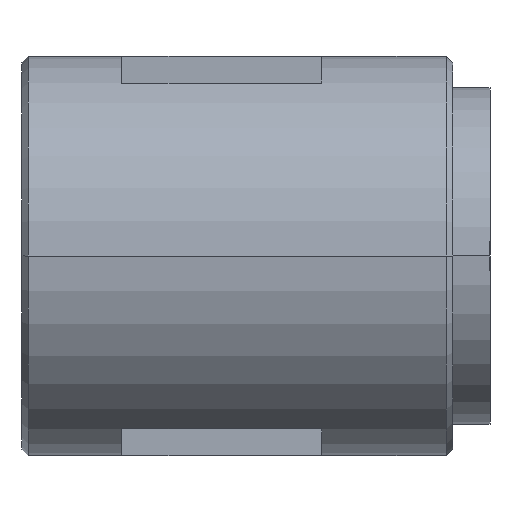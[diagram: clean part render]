
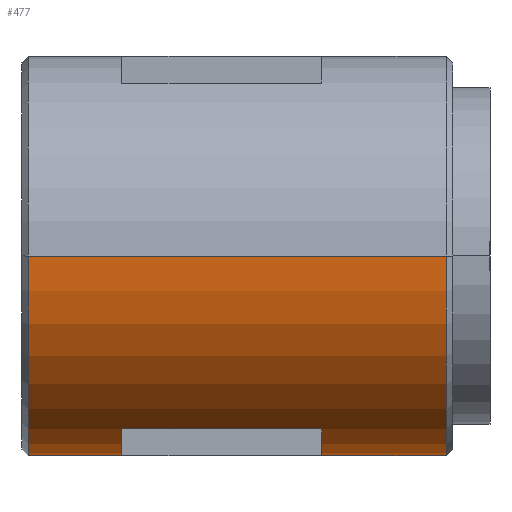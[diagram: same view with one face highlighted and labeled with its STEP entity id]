
A CAD part, left-side view. The second image highlights one B-rep face of the part: STEP entity #477.
In plain terms, the highlighted cylindrical face has radius 16 mm (diameter 32 mm), a partial arc.
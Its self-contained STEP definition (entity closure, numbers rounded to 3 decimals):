
#277=CARTESIAN_POINT('',(-16.0,16.25,0.));
#278=VERTEX_POINT('',#277);
#294=CARTESIAN_POINT('',(16.0,16.25,0.0));
#295=VERTEX_POINT('',#294);
#302=CARTESIAN_POINT('',(0.0,16.25,0.0));
#303=DIRECTION('',(0.0,1.0,0.0));
#304=DIRECTION('',(-1.0,0.0,0.0));
#305=AXIS2_PLACEMENT_3D('',#302,#303,#304);
#306=CIRCLE('',#305,16.0);
#307=EDGE_CURVE('',#295,#278,#306,.T.);
#354=CARTESIAN_POINT('',(0.0,-17.75,0.0));
#355=DIRECTION('',(0.0,1.0,0.0));
#356=DIRECTION('',(1.0,0.0,0.0));
#357=AXIS2_PLACEMENT_3D('',#354,#355,#356);
#358=CYLINDRICAL_SURFACE('',#357,16.0);
#359=CARTESIAN_POINT('',(16.0,-17.25,0.));
#360=VERTEX_POINT('',#359);
#361=CARTESIAN_POINT('',(16.0,-12.0,0.));
#362=VERTEX_POINT('',#361);
#363=CARTESIAN_POINT('',(16.0,-17.25,0.));
#364=DIRECTION('',(0.0,1.0,0.0));
#365=VECTOR('',#364,5.25);
#366=LINE('',#363,#365);
#367=EDGE_CURVE('',#360,#362,#366,.T.);
#368=ORIENTED_EDGE('',*,*,#367,.F.);
#369=CARTESIAN_POINT('',(-16.0,-17.25,0.0));
#370=VERTEX_POINT('',#369);
#371=CARTESIAN_POINT('',(0.0,-17.25,0.0));
#372=DIRECTION('',(0.0,-1.0,0.0));
#373=DIRECTION('',(1.0,0.0,0.0));
#374=AXIS2_PLACEMENT_3D('',#371,#372,#373);
#375=CIRCLE('',#374,16.0);
#376=EDGE_CURVE('',#370,#360,#375,.T.);
#377=ORIENTED_EDGE('',*,*,#376,.F.);
#378=CARTESIAN_POINT('',(-16.0,16.25,0.));
#379=DIRECTION('',(0.0,-1.0,0.0));
#380=VECTOR('',#379,33.5);
#381=LINE('',#378,#380);
#382=EDGE_CURVE('',#278,#370,#381,.T.);
#383=ORIENTED_EDGE('',*,*,#382,.F.);
#384=ORIENTED_EDGE('',*,*,#307,.F.);
#385=CARTESIAN_POINT('',(16.0,13.5,0.));
#386=VERTEX_POINT('',#385);
#387=CARTESIAN_POINT('',(16.0,13.5,0.));
#388=DIRECTION('',(0.0,1.0,0.0));
#389=VECTOR('',#388,2.75);
#390=LINE('',#387,#389);
#391=EDGE_CURVE('',#386,#295,#390,.T.);
#392=ORIENTED_EDGE('',*,*,#391,.F.);
#393=CARTESIAN_POINT('',(10.583,0.75,-12.0));
#394=VERTEX_POINT('',#393);
#395=CARTESIAN_POINT('',(16.0,13.5,0.));
#396=CARTESIAN_POINT('',(16.0,13.5,-2.02));
#397=CARTESIAN_POINT('',(15.589,12.931,-4.035));
#398=CARTESIAN_POINT('',(14.111,10.707,-7.888));
#399=CARTESIAN_POINT('',(12.9,8.841,-9.579));
#400=CARTESIAN_POINT('',(11.177,4.861,-11.503));
#401=CARTESIAN_POINT('',(10.583,2.828,-12.0));
#402=CARTESIAN_POINT('',(10.583,0.75,-12.0));
#403=B_SPLINE_CURVE_WITH_KNOTS('',3,(#395,#396,#397,#398,#399,#400,#401,#402),.UNSPECIFIED.,.F.,.U.,(4,2,2,4),(56.024,61.784,69.131,74.692),.UNSPECIFIED.);
#404=EDGE_CURVE('',#394,#386,#403,.F.);
#405=ORIENTED_EDGE('',*,*,#404,.F.);
#406=CARTESIAN_POINT('',(10.583,0.75,-12.0));
#407=CARTESIAN_POINT('',(10.583,-0.054,-12.0));
#408=CARTESIAN_POINT('',(10.667,-0.859,-11.927));
#409=CARTESIAN_POINT('',(11.06,-2.872,-11.567));
#410=CARTESIAN_POINT('',(11.467,-4.036,-11.18));
#411=CARTESIAN_POINT('',(12.628,-6.707,-9.881));
#412=CARTESIAN_POINT('',(13.444,-8.1,-8.805));
#413=CARTESIAN_POINT('',(15.064,-10.693,-5.737));
#414=CARTESIAN_POINT('',(15.788,-11.699,-3.516));
#415=CARTESIAN_POINT('',(15.986,-11.98,-0.769));
#416=CARTESIAN_POINT('',(16.0,-12.0,-0.383));
#417=CARTESIAN_POINT('',(16.0,-12.0,0.));
#418=B_SPLINE_CURVE_WITH_KNOTS('',3,(#406,#407,#408,#409,#410,#411,#412,#413,#414,#415,#416,#417),.UNSPECIFIED.,.F.,.U.,(4,2,2,2,2,4),(0.0,2.152,5.594,10.803,17.572,18.665),.UNSPECIFIED.);
#419=EDGE_CURVE('',#362,#394,#418,.F.);
#420=ORIENTED_EDGE('',*,*,#419,.F.);
#421=EDGE_LOOP('',(#368,#377,#383,#384,#392,#405,#420));
#422=FACE_OUTER_BOUND('',#421,.T.);
#423=CARTESIAN_POINT('',(8.,8.75,-13.856));
#424=VERTEX_POINT('',#423);
#425=CARTESIAN_POINT('',(0.0,8.75,-16.0));
#426=VERTEX_POINT('',#425);
#427=CARTESIAN_POINT('',(0.0,8.75,0.0));
#428=DIRECTION('',(0.0,1.0,0.0));
#429=DIRECTION('',(1.0,0.0,0.0));
#430=AXIS2_PLACEMENT_3D('',#427,#428,#429);
#431=CIRCLE('',#430,16.0);
#432=EDGE_CURVE('',#424,#426,#431,.T.);
#433=ORIENTED_EDGE('',*,*,#432,.T.);
#434=CARTESIAN_POINT('',(-8.0,8.75,-13.856));
#435=VERTEX_POINT('',#434);
#436=CARTESIAN_POINT('',(0.0,8.75,0.0));
#437=DIRECTION('',(0.0,1.0,0.0));
#438=DIRECTION('',(1.0,0.0,0.0));
#439=AXIS2_PLACEMENT_3D('',#436,#437,#438);
#440=CIRCLE('',#439,16.0);
#441=EDGE_CURVE('',#426,#435,#440,.T.);
#442=ORIENTED_EDGE('',*,*,#441,.T.);
#443=CARTESIAN_POINT('',(-8.0,-7.25,-13.856));
#444=VERTEX_POINT('',#443);
#445=CARTESIAN_POINT('',(-8.0,8.75,-13.856));
#446=DIRECTION('',(0.0,-1.0,0.0));
#447=VECTOR('',#446,16.0);
#448=LINE('',#445,#447);
#449=EDGE_CURVE('',#435,#444,#448,.T.);
#450=ORIENTED_EDGE('',*,*,#449,.T.);
#451=CARTESIAN_POINT('',(0.0,-7.25,-16.0));
#452=VERTEX_POINT('',#451);
#453=CARTESIAN_POINT('',(0.0,-7.25,0.0));
#454=DIRECTION('',(0.0,-1.0,0.0));
#455=DIRECTION('',(1.0,0.0,0.0));
#456=AXIS2_PLACEMENT_3D('',#453,#454,#455);
#457=CIRCLE('',#456,16.0);
#458=EDGE_CURVE('',#444,#452,#457,.T.);
#459=ORIENTED_EDGE('',*,*,#458,.T.);
#460=CARTESIAN_POINT('',(8.,-7.25,-13.856));
#461=VERTEX_POINT('',#460);
#462=CARTESIAN_POINT('',(0.0,-7.25,0.0));
#463=DIRECTION('',(0.0,-1.0,0.0));
#464=DIRECTION('',(1.0,0.0,0.0));
#465=AXIS2_PLACEMENT_3D('',#462,#463,#464);
#466=CIRCLE('',#465,16.0);
#467=EDGE_CURVE('',#452,#461,#466,.T.);
#468=ORIENTED_EDGE('',*,*,#467,.T.);
#469=CARTESIAN_POINT('',(8.,-7.25,-13.856));
#470=DIRECTION('',(0.0,1.0,0.0));
#471=VECTOR('',#470,16.);
#472=LINE('',#469,#471);
#473=EDGE_CURVE('',#461,#424,#472,.T.);
#474=ORIENTED_EDGE('',*,*,#473,.T.);
#475=EDGE_LOOP('',(#433,#442,#450,#459,#468,#474));
#476=FACE_BOUND('',#475,.T.);
#477=ADVANCED_FACE('',(#422,#476),#358,.T.);
